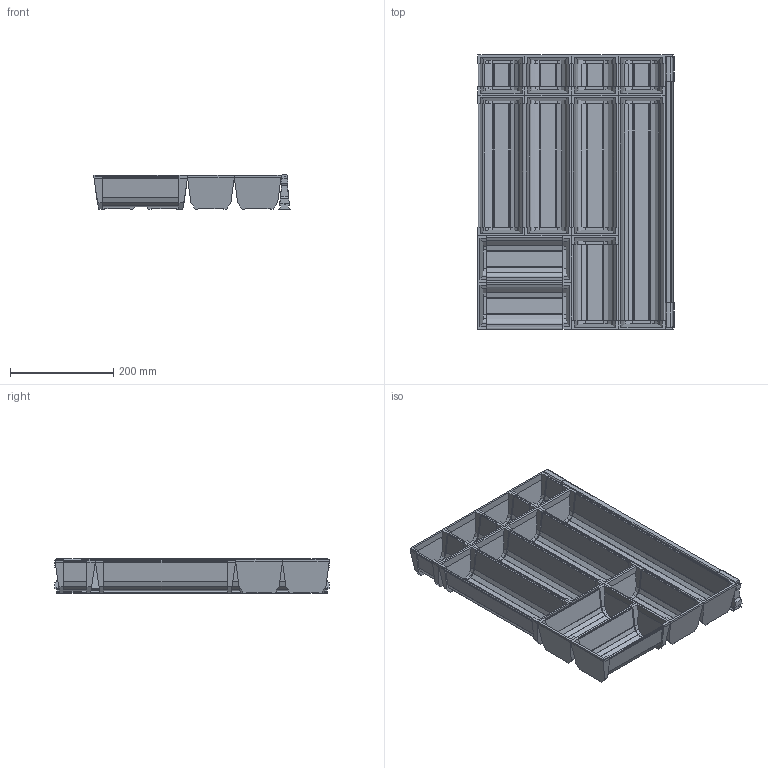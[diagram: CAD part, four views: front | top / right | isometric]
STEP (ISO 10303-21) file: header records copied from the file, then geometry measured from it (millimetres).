
FILE_DESCRIPTION (( 'STEP AP214' ), '1' );
FILE_NAME ('Inoxsys_B4_NL-550.STEP', '2010-08-17T11:35:05', ( 'grass' ), ( '' ), 'SwSTEP 2.0', 'SolidWorks 2010', '' );
FILE_SCHEMA (( 'AUTOMOTIVE_DESIGN' ));
Length unit declared in the file: millimetre
Products named in the file (1): Inoxsys_B4_NL-550
Bounding box: 379.4 x 531 x 67.5 mm (x, y, z)
Volume: 1133760.9 mm3; surface area: 1074533.6 mm2
Topology: 12 solids, 12 shells, 1357 faces, 3933 edges, 2622 vertices
Faces by surface type: plane 937, cylinder 420
Entity records: 59707 total; most frequent: CARTESIAN_POINT 8315, ORIENTED_EDGE 7866, DIRECTION 7353, EDGE_CURVE 3933, VECTOR 3033, LINE 3033, VERTEX_POINT 2622, AXIS2_PLACEMENT_3D 2160
